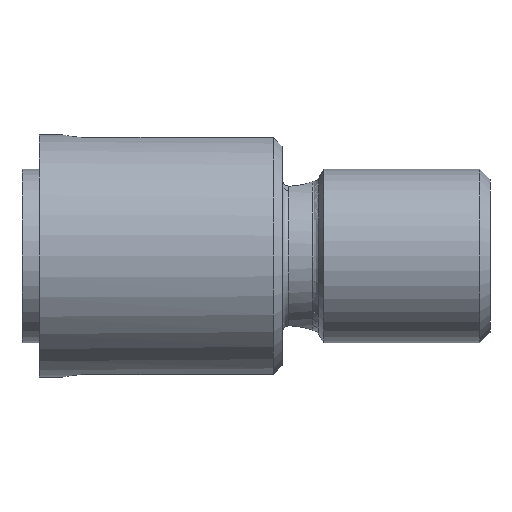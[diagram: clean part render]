
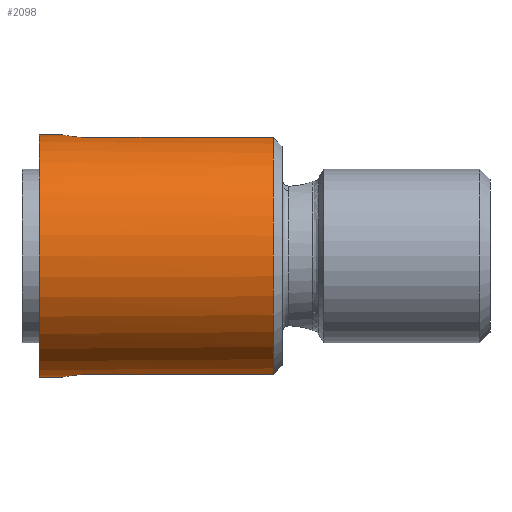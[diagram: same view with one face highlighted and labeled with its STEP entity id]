
A CAD part, left-side view. The second image highlights one B-rep face of the part: STEP entity #2098.
In plain terms, the highlighted cylindrical face has radius 7 mm (diameter 14 mm), a partial arc.
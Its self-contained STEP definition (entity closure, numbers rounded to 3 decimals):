
#21 = CARTESIAN_POINT ( 'NONE',  ( -1.5, -2.8, 6.837 ) ) ;
#34 = ORIENTED_EDGE ( 'NONE', *, *, #1639, .F. ) ;
#55 = DIRECTION ( 'NONE',  ( 0., 0., 1. ) ) ;
#56 = AXIS2_PLACEMENT_3D ( 'NONE', #324, #473, #486 ) ;
#91 = VERTEX_POINT ( 'NONE', #1140 ) ;
#100 = VERTEX_POINT ( 'NONE', #1202 ) ;
#130 = CARTESIAN_POINT ( 'NONE',  ( 0., -1.3, 7. ) ) ;
#132 = CARTESIAN_POINT ( 'NONE',  ( -1.193, -1.885, 6.898 ) ) ;
#148 = CARTESIAN_POINT ( 'NONE',  ( -0.394, -1.34, 6.991 ) ) ;
#209 = ORIENTED_EDGE ( 'NONE', *, *, #1554, .T. ) ;
#228 = CARTESIAN_POINT ( 'NONE',  ( -1.5, 6.807, -6.837 ) ) ;
#239 = CARTESIAN_POINT ( 'NONE',  ( -0.922, -1.601, 6.94 ) ) ;
#259 = VERTEX_POINT ( 'NONE', #1329 ) ;
#284 = ORIENTED_EDGE ( 'NONE', *, *, #695, .F. ) ;
#302 = DIRECTION ( 'NONE',  ( 0., -1., 0. ) ) ;
#307 = EDGE_CURVE ( 'NONE', #259, #91, #785, .T. ) ;
#322 = EDGE_LOOP ( 'NONE', ( #459, #284, #605, #354, #676, #729, #209, #34 ) ) ;
#324 = CARTESIAN_POINT ( 'NONE',  ( 0., -13.5, 0. ) ) ;
#354 = ORIENTED_EDGE ( 'NONE', *, *, #1798, .T. ) ;
#389 = VERTEX_POINT ( 'NONE', #130 ) ;
#459 = ORIENTED_EDGE ( 'NONE', *, *, #1709, .F. ) ;
#473 = DIRECTION ( 'NONE',  ( 0., 1., 0. ) ) ;
#486 = DIRECTION ( 'NONE',  ( 0., 0., -1. ) ) ;
#503 = CARTESIAN_POINT ( 'NONE',  ( -1.13, -1.808, 6.909 ) ) ;
#507 = CARTESIAN_POINT ( 'NONE',  ( -0.755, -1.489, 6.961 ) ) ;
#558 = VECTOR ( 'NONE', #824, 1000. ) ;
#596 = CARTESIAN_POINT ( 'NONE',  ( -1.461, -2.407, 6.846 ) ) ;
#605 = ORIENTED_EDGE ( 'NONE', *, *, #861, .T. ) ;
#608 = CARTESIAN_POINT ( 'NONE',  ( -1.5, -2.701, -6.837 ) ) ;
#621 = CARTESIAN_POINT ( 'NONE',  ( -1.301, -2.047, 6.878 ) ) ;
#634 = DIRECTION ( 'NONE',  ( 0., 1., 0. ) ) ;
#635 = LINE ( 'NONE', #228, #781 ) ;
#648 = VERTEX_POINT ( 'NONE', #2103 ) ;
#660 = CARTESIAN_POINT ( 'NONE',  ( 0., 6.807, 7. ) ) ;
#672 = CARTESIAN_POINT ( 'NONE',  ( -1.347, -2.133, 6.869 ) ) ;
#676 = ORIENTED_EDGE ( 'NONE', *, *, #307, .T. ) ;
#679 = AXIS2_PLACEMENT_3D ( 'NONE', #2126, #2076, #55 ) ;
#695 = EDGE_CURVE ( 'NONE', #100, #1965, #828, .T. ) ;
#729 = ORIENTED_EDGE ( 'NONE', *, *, #765, .F. ) ;
#755 = B_SPLINE_CURVE_WITH_KNOTS ( 'NONE', 3,
 ( #2111, #1867, #148, #507, #239, #503, #132, #621, #672, #596, #2064, #21 ),
 .UNSPECIFIED., .F., .F.,
 ( 4, 2, 2, 2, 2, 4 ),
 ( 0.005, 0.005, 0.006, 0.006, 0.006, 0.007 ),
 .UNSPECIFIED. ) ;
#765 = EDGE_CURVE ( 'NONE', #389, #91, #755, .T. ) ;
#778 = CARTESIAN_POINT ( 'NONE',  ( -1.5, 6.807, 6.837 ) ) ;
#781 = VECTOR ( 'NONE', #302, 1000. ) ;
#785 = LINE ( 'NONE', #778, #558 ) ;
#816 = DIRECTION ( 'NONE',  ( 0., 0., 1. ) ) ;
#824 = DIRECTION ( 'NONE',  ( 0., 1., 0. ) ) ;
#828 = B_SPLINE_CURVE_WITH_KNOTS ( 'NONE', 3,
 ( #846, #608, #1137, #1162, #1411, #1193, #1438, #1416, #1432, #1797, #1494, #1669 ),
 .UNSPECIFIED., .F., .F.,
 ( 4, 2, 2, 2, 2, 4 ),
 ( 0.007, 0.007, 0.008, 0.008, 0.009, 0.009 ),
 .UNSPECIFIED. ) ;
#841 = DIRECTION ( 'NONE',  ( 0., 1., 0. ) ) ;
#846 = CARTESIAN_POINT ( 'NONE',  ( -1.5, -2.8, -6.837 ) ) ;
#861 = EDGE_CURVE ( 'NONE', #100, #1679, #635, .T. ) ;
#879 = CARTESIAN_POINT ( 'NONE',  ( 0., 0., 0. ) ) ;
#897 = CYLINDRICAL_SURFACE ( 'NONE', #679, 7. ) ;
#983 = LINE ( 'NONE', #1266, #1156 ) ;
#1109 = AXIS2_PLACEMENT_3D ( 'NONE', #879, #841, #816 ) ;
#1125 = FACE_OUTER_BOUND ( 'NONE', #322, .T. ) ;
#1137 = CARTESIAN_POINT ( 'NONE',  ( -1.49, -2.603, -6.84 ) ) ;
#1140 = CARTESIAN_POINT ( 'NONE',  ( -1.5, -2.8, 6.837 ) ) ;
#1145 = DIRECTION ( 'NONE',  ( 0., 1., 0. ) ) ;
#1156 = VECTOR ( 'NONE', #1145, 1000. ) ;
#1162 = CARTESIAN_POINT ( 'NONE',  ( -1.452, -2.411, -6.848 ) ) ;
#1193 = CARTESIAN_POINT ( 'NONE',  ( -1.31, -2.044, -6.877 ) ) ;
#1202 = CARTESIAN_POINT ( 'NONE',  ( -1.5, -2.8, -6.837 ) ) ;
#1207 = CIRCLE ( 'NONE', #1109, 7. ) ;
#1266 = CARTESIAN_POINT ( 'NONE',  ( 0., 6.807, -7. ) ) ;
#1329 = CARTESIAN_POINT ( 'NONE',  ( -1.5, -13.5, 6.837 ) ) ;
#1411 = CARTESIAN_POINT ( 'NONE',  ( -1.423, -2.316, -6.854 ) ) ;
#1416 = CARTESIAN_POINT ( 'NONE',  ( -0.923, -1.602, -6.94 ) ) ;
#1432 = CARTESIAN_POINT ( 'NONE',  ( -0.757, -1.49, -6.961 ) ) ;
#1438 = CARTESIAN_POINT ( 'NONE',  ( -1.199, -1.878, -6.898 ) ) ;
#1460 = CARTESIAN_POINT ( 'NONE',  ( -1.5, -13.5, -6.837 ) ) ;
#1494 = CARTESIAN_POINT ( 'NONE',  ( -0.199, -1.3, -7. ) ) ;
#1554 = EDGE_CURVE ( 'NONE', #389, #1891, #2139, .T. ) ;
#1639 = EDGE_CURVE ( 'NONE', #648, #1891, #1207, .T. ) ;
#1669 = CARTESIAN_POINT ( 'NONE',  ( 0., -1.3, -7. ) ) ;
#1679 = VERTEX_POINT ( 'NONE', #1460 ) ;
#1709 = EDGE_CURVE ( 'NONE', #1965, #648, #983, .T. ) ;
#1797 = CARTESIAN_POINT ( 'NONE',  ( -0.396, -1.34, -6.991 ) ) ;
#1798 = EDGE_CURVE ( 'NONE', #1679, #259, #2043, .T. ) ;
#1847 = CARTESIAN_POINT ( 'NONE',  ( 0., 0., 7. ) ) ;
#1867 = CARTESIAN_POINT ( 'NONE',  ( -0.196, -1.3, 7. ) ) ;
#1876 = CARTESIAN_POINT ( 'NONE',  ( 0., -1.3, -7. ) ) ;
#1891 = VERTEX_POINT ( 'NONE', #1847 ) ;
#1965 = VERTEX_POINT ( 'NONE', #1876 ) ;
#2043 = CIRCLE ( 'NONE', #56, 7. ) ;
#2064 = CARTESIAN_POINT ( 'NONE',  ( -1.5, -2.602, 6.837 ) ) ;
#2076 = DIRECTION ( 'NONE',  ( 0., 1., 0. ) ) ;
#2088 = VECTOR ( 'NONE', #634, 1000. ) ;
#2098 = ADVANCED_FACE ( 'NONE', ( #1125 ), #897, .T. ) ;
#2103 = CARTESIAN_POINT ( 'NONE',  ( 0., 0., -7. ) ) ;
#2111 = CARTESIAN_POINT ( 'NONE',  ( 0., -1.3, 7. ) ) ;
#2126 = CARTESIAN_POINT ( 'NONE',  ( 0., 6.807, 0. ) ) ;
#2139 = LINE ( 'NONE', #660, #2088 ) ;
